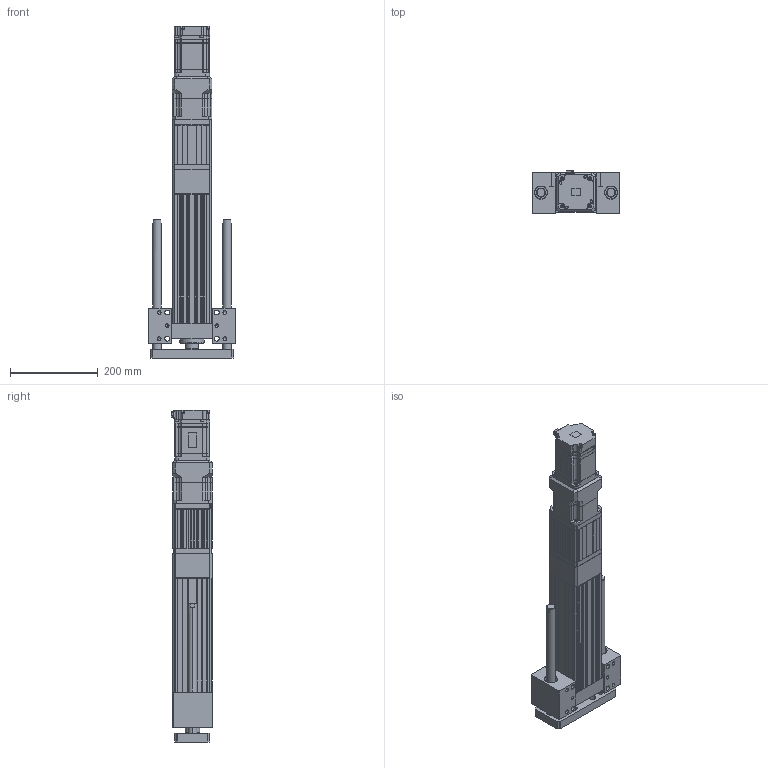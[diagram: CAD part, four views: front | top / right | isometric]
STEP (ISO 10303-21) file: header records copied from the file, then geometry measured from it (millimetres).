
FILE_DESCRIPTION (( 'STEP AP203' ), '1' );
FILE_NAME ('ANS090H-HS150-05(10)(25)-W75G05.STEP', '2019-03-18T03:19:38', ( 'user' ), ( '' ), 'SwSTEP 2.0', 'SolidWorks 2013', '' );
FILE_SCHEMA (( 'CONFIG_CONTROL_DESIGN' ));
Length unit declared in the file: millimetre
Products named in the file (5): AB090-005-S1-P2[YASKAWA SGMJV08A]; ANS090H-HS150-05(10)(25)-W75G05; ANS090H HS150 VER2; ANS090 ROD ST150-H; SGMJV_08A_A21
Assembly tree (4 placements, depth 2):
  ANS090H-HS150-05(10)(25)-W75G05
    ANS090H HS150 VER2
    ANS090 ROD ST150-H
    SGMJV_08A_A21
    AB090-005-S1-P2[YASKAWA SGMJV08A]
Bounding box: 200 x 95.8 x 758.1 mm (x, y, z)
Volume: 4087706.6 mm3; surface area: 696225.2 mm2
Topology: 3 solids, 10 shells, 1749 faces, 4692 edges, 3042 vertices
Faces by surface type: plane 1030, cylinder 559, cone 148, bspline 12
Entity records: 55250 total; most frequent: CARTESIAN_POINT 10492, ORIENTED_EDGE 9248, DIRECTION 9165, EDGE_CURVE 4668, LINE 3271, VECTOR 3271, VERTEX_POINT 3042, AXIS2_PLACEMENT_3D 2947
